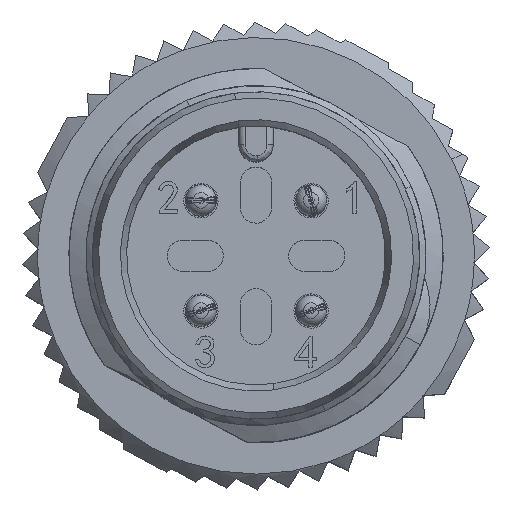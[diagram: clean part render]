
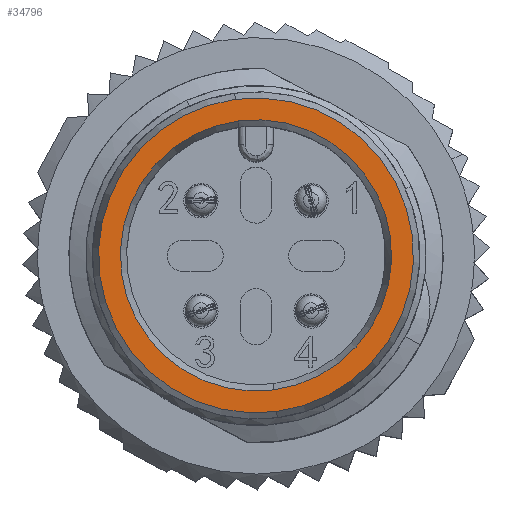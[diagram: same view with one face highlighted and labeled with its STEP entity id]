
A CAD part, top view. The second image highlights one B-rep face of the part: STEP entity #34796.
In plain terms, the highlighted planar face has unit normal (0, 0, 1).
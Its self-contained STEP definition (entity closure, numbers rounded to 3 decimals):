
#627 = EDGE_LOOP ( 'NONE', ( #7896, #16196 ) ) ;
#2231 = EDGE_CURVE ( 'NONE', #28400, #36798, #2233, .T. ) ;
#2233 = CIRCLE ( 'NONE', #17743, 4.35 ) ;
#3120 = PLANE ( 'NONE',  #29033 ) ;
#5884 = CARTESIAN_POINT ( 'NONE',  ( 0.568, -4.313, 153.4 ) ) ;
#5960 = FACE_BOUND ( 'NONE', #29037, .T. ) ;
#7896 = ORIENTED_EDGE ( 'NONE', *, *, #30107, .F. ) ;
#8562 = EDGE_CURVE ( 'NONE', #36798, #28400, #27608, .T. ) ;
#8726 = CARTESIAN_POINT ( 'NONE',  ( 0., 0., 153.4 ) ) ;
#9174 = CIRCLE ( 'NONE', #25210, 5.05 ) ;
#10524 = DIRECTION ( 'NONE',  ( 0., 0., -1. ) ) ;
#13938 = CARTESIAN_POINT ( 'NONE',  ( -0.568, 4.313, 153.4 ) ) ;
#16196 = ORIENTED_EDGE ( 'NONE', *, *, #29874, .F. ) ;
#17743 = AXIS2_PLACEMENT_3D ( 'NONE', #27265, #24424, #39594 ) ;
#20922 = ORIENTED_EDGE ( 'NONE', *, *, #2231, .T. ) ;
#21668 = CARTESIAN_POINT ( 'NONE',  ( 0., 0., 153.4 ) ) ;
#21907 = FACE_OUTER_BOUND ( 'NONE', #627, .T. ) ;
#24424 = DIRECTION ( 'NONE',  ( 0., 0., -1. ) ) ;
#25052 = VERTEX_POINT ( 'NONE', #32969 ) ;
#25143 = CARTESIAN_POINT ( 'NONE',  ( -3.324, -3.323, 153.4 ) ) ;
#25210 = AXIS2_PLACEMENT_3D ( 'NONE', #25878, #10524, #35194 ) ;
#25728 = CARTESIAN_POINT ( 'NONE',  ( -0.659, 5.007, 153.4 ) ) ;
#25878 = CARTESIAN_POINT ( 'NONE',  ( 0., 0., 153.4 ) ) ;
#27265 = CARTESIAN_POINT ( 'NONE',  ( 0., 0., 153.4 ) ) ;
#27608 = CIRCLE ( 'NONE', #39912, 4.35 ) ;
#27739 = DIRECTION ( 'NONE',  ( 0., 0., -1. ) ) ;
#28400 = VERTEX_POINT ( 'NONE', #13938 ) ;
#28680 = DIRECTION ( 'NONE',  ( 0.13, -0.991, 0. ) ) ;
#29033 = AXIS2_PLACEMENT_3D ( 'NONE', #25143, #37471, #33651 ) ;
#29037 = EDGE_LOOP ( 'NONE', ( #34413, #20922 ) ) ;
#29488 = VERTEX_POINT ( 'NONE', #25728 ) ;
#29874 = EDGE_CURVE ( 'NONE', #25052, #29488, #36272, .T. ) ;
#30107 = EDGE_CURVE ( 'NONE', #29488, #25052, #9174, .T. ) ;
#32969 = CARTESIAN_POINT ( 'NONE',  ( 0.659, -5.007, 153.4 ) ) ;
#33028 = AXIS2_PLACEMENT_3D ( 'NONE', #8726, #33396, #39261 ) ;
#33396 = DIRECTION ( 'NONE',  ( 0., 0., -1. ) ) ;
#33651 = DIRECTION ( 'NONE',  ( 1., 0., 0. ) ) ;
#34413 = ORIENTED_EDGE ( 'NONE', *, *, #8562, .T. ) ;
#34796 = ADVANCED_FACE ( 'NONE', ( #21907, #5960 ), #3120, .T. ) ;
#35194 = DIRECTION ( 'NONE',  ( -0.13, 0.991, 0. ) ) ;
#36272 = CIRCLE ( 'NONE', #33028, 5.05 ) ;
#36798 = VERTEX_POINT ( 'NONE', #5884 ) ;
#37471 = DIRECTION ( 'NONE',  ( 0., 0., 1. ) ) ;
#39261 = DIRECTION ( 'NONE',  ( -0.13, 0.991, 0. ) ) ;
#39594 = DIRECTION ( 'NONE',  ( 0.13, -0.991, 0. ) ) ;
#39912 = AXIS2_PLACEMENT_3D ( 'NONE', #21668, #27739, #28680 ) ;
